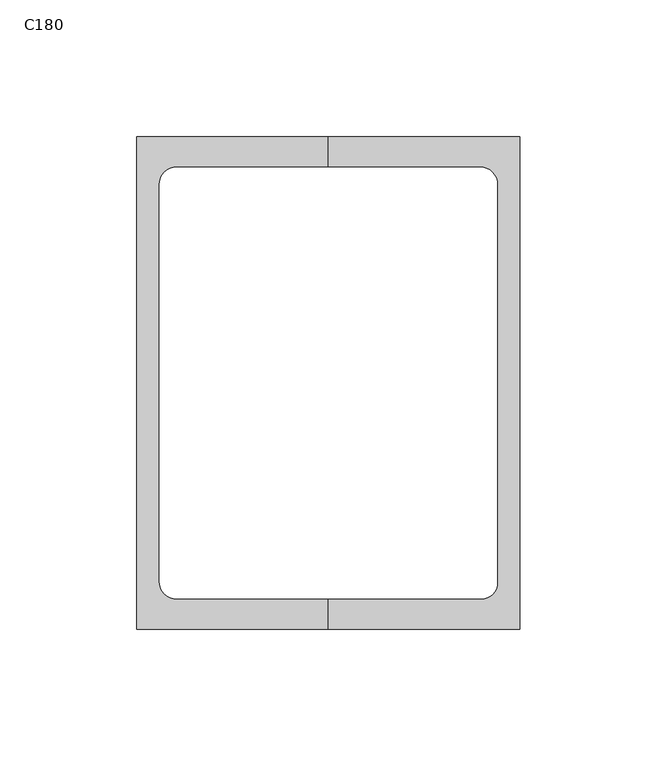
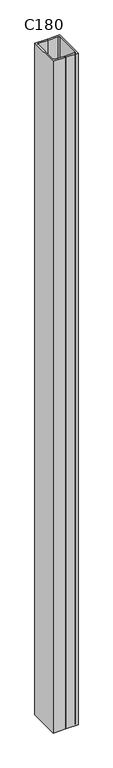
"""IFC4 building model written with IfcOpenShell, lengths in millimetres: column geometry, RPLN C - Ceowniki normalne_Column -x2 : C180."""

import ifcopenshell
import ifcopenshell.guid

model = None  # the IFC model being written
_history = None  # IfcOwnerHistory: only IFC2X3 demands one
_inside = {}  # id of a spatial element -> (the spatial element, [elements in it])
_under = {}  # id of a project, library or spatial element -> (it, [spatial elements below it])
_declared = {}  # id of a project -> (the project, [libraries it declares])
_typed = {}  # id of a type object -> (the type object, [elements of that type])
_made_of = {}  # id of a material, layer set ... -> (it, [elements and type objects made of it])


def new_model(schema):
    """Start an empty IFC model of exactly this schema.

    Asked for "IFC4X3", IfcOpenShell would pick the latest addendum, in which some entities
    have other attributes; the version numbers below select the first issue.
    IFC2X3 requires an IfcOwnerHistory on every rooted entity: one is made here for all.
    """
    global model, _history
    if schema == "IFC4X3":
        model = ifcopenshell.file(schema_version=(4, 3, 0, 0))
    else:
        model = ifcopenshell.file(schema=schema)
    _inside.clear()
    _under.clear()
    _declared.clear()
    _typed.clear()
    _made_of.clear()
    _history = None
    if model.schema == "IFC2X3":
        org = make("IfcOrganization", Name="unknown")
        user = make(
            "IfcPersonAndOrganization",
            ThePerson=make("IfcPerson", FamilyName="unknown"),
            TheOrganization=org,
        )
        app = make(
            "IfcApplication",
            ApplicationDeveloper=org,
            Version="unknown",
            ApplicationFullName="unknown",
            ApplicationIdentifier="unknown",
        )
        _history = make(
            "IfcOwnerHistory",
            OwningUser=user,
            OwningApplication=app,
            ChangeAction="ADDED",
            CreationDate=0,
        )
    return model


def make(cls, **values):
    """One entity of the class cls with the attributes given. An attribute that is None is left unset."""
    return model.create_entity(
        cls, **{name: value for name, value in values.items() if value is not None}
    )


def rooted(cls, **values):
    """An entity with a GlobalId (a new one), such as an element, a storey or a relation."""
    return make(cls, GlobalId=ifcopenshell.guid.new(), OwnerHistory=_history, **values)


def si_unit(unit_type, name, prefix=None):
    """IfcSIUnit, for example si_unit("LENGTHUNIT", "METRE", prefix="MILLI")."""
    return make("IfcSIUnit", UnitType=unit_type, Prefix=prefix, Name=name)


def assignment(units):
    """IfcUnitAssignment: the units of a project."""
    return None if units is None else make("IfcUnitAssignment", Units=units)


def point(xyz):
    """IfcCartesianPoint."""
    return None if xyz is None else make("IfcCartesianPoint", Coordinates=xyz)


def direction(xyz):
    """IfcDirection."""
    return None if xyz is None else make("IfcDirection", DirectionRatios=xyz)


def frame(location, z_axis=None, x_axis=None):
    """IfcAxis2Placement3D, a coordinate frame: its origin and axes. An axis left out is left unset."""
    return make(
        "IfcAxis2Placement3D",
        Location=point(location),
        Axis=direction(z_axis),
        RefDirection=direction(x_axis),
    )


def frame_2d(location, x_axis=None):
    """IfcAxis2Placement2D, a coordinate frame in the plane: its origin and x axis."""
    return make(
        "IfcAxis2Placement2D", Location=point(location), RefDirection=direction(x_axis)
    )


def origin():
    """The frame at (0, 0, 0) with its axes left unset."""
    return frame((0.0, 0.0, 0.0))


def origin_with_axes():
    """The frame at (0, 0, 0) with the z axis (0, 0, 1) and the x axis (1, 0, 0) written out."""
    return frame((0.0, 0.0, 0.0), z_axis=(0.0, 0.0, 1.0), x_axis=(1.0, 0.0, 0.0))


def place(relative_to, where):
    """IfcLocalPlacement: puts the frame where relative to a parent placement (None: the world)."""
    return make(
        "IfcLocalPlacement", PlacementRelTo=relative_to, RelativePlacement=where
    )


def context(
    kind, dimensions, precision=None, world=None, true_north=None, identifier=None
):
    """IfcGeometricRepresentationContext, for example the 3D "Model" context."""
    return make(
        "IfcGeometricRepresentationContext",
        ContextIdentifier=identifier,
        ContextType=kind,
        CoordinateSpaceDimension=dimensions,
        Precision=precision,
        WorldCoordinateSystem=world,
        TrueNorth=true_north,
    )


def project(units=None, contexts=None):
    """IfcProject with its units and contexts."""
    return rooted(
        "IfcProject",
        Name="project",
        RepresentationContexts=contexts,
        UnitsInContext=assignment(units),
    )


def spatial(cls, under=None, at=None, **own):
    """A site, building, storey or space (cls), placed at a placement, below another one or the project."""
    s = rooted(cls, ObjectPlacement=at, **own)
    if under is not None:
        _under.setdefault(under.id(), (under, []))[1].append(s)
    return s


def polyline(points):
    """IfcPolyline through the points."""
    return make("IfcPolyline", Points=[point(p) for p in points])


def circle_curve(where, radius):
    """IfcCircle in the frame where."""
    return make("IfcCircle", Position=where, Radius=radius)


def trimmed(basis, trim1, trim2, sense, master):
    """IfcTrimmedCurve: the piece of a basis curve between two trims."""
    return make(
        "IfcTrimmedCurve",
        BasisCurve=basis,
        Trim1=trim1,
        Trim2=trim2,
        SenseAgreement=sense,
        MasterRepresentation=master,
    )


def segment(curve, same_sense, transition):
    """IfcCompositeCurveSegment."""
    return make(
        "IfcCompositeCurveSegment",
        Transition=transition,
        SameSense=same_sense,
        ParentCurve=curve,
    )


def composite_curve(segments, self_intersect=None):
    """IfcCompositeCurve: segments joined end to end."""
    return make("IfcCompositeCurve", Segments=segments, SelfIntersect=self_intersect)


def outline(outer, holes=None, kind="AREA"):
    """IfcArbitraryClosedProfileDef: a profile drawn as a closed curve; with holes, ...WithVoids."""
    if holes is None:
        return make("IfcArbitraryClosedProfileDef", ProfileType=kind, OuterCurve=outer)
    return make(
        "IfcArbitraryProfileDefWithVoids",
        ProfileType=kind,
        OuterCurve=outer,
        InnerCurves=holes,
    )


def extrude(swept, where, along, depth):
    """IfcExtrudedAreaSolid: the profile swept, set in the frame where, extruded along a direction by depth."""
    return make(
        "IfcExtrudedAreaSolid",
        SweptArea=swept,
        Position=where,
        ExtrudedDirection=direction(along),
        Depth=depth,
    )


def shape(context_of_items, identifier, shape_type, items):
    """IfcShapeRepresentation: the items that make up one representation, for example the "Body"."""
    return make(
        "IfcShapeRepresentation",
        ContextOfItems=context_of_items,
        RepresentationIdentifier=identifier,
        RepresentationType=shape_type,
        Items=items,
    )


def source(mapping_origin, context_of_items, identifier, shape_type, items):
    """IfcRepresentationMap: a shape defined once, which mapped items show again and again."""
    return make(
        "IfcRepresentationMap",
        MappingOrigin=mapping_origin,
        MappedRepresentation=shape(context_of_items, identifier, shape_type, items),
    )


def transform(
    local_origin,
    x_axis=None,
    y_axis=None,
    z_axis=None,
    scale=None,
    scale2=None,
    scale3=None,
    uniform=True,
):
    """IfcCartesianTransformationOperator3D, or its non-uniform kind. x_axis, y_axis, z_axis: its Axis1, 2, 3."""
    if uniform:
        return make(
            "IfcCartesianTransformationOperator3D",
            Axis1=direction(x_axis),
            Axis2=direction(y_axis),
            LocalOrigin=point(local_origin),
            Scale=scale,
            Axis3=direction(z_axis),
        )
    return make(
        "IfcCartesianTransformationOperator3DnonUniform",
        Axis1=direction(x_axis),
        Axis2=direction(y_axis),
        LocalOrigin=point(local_origin),
        Scale=scale,
        Axis3=direction(z_axis),
        Scale2=scale2,
        Scale3=scale3,
    )


def mapped(mapping_source, mapping_target):
    """IfcMappedItem: shows the shape of a source again, moved by a transform."""
    return make(
        "IfcMappedItem", MappingSource=mapping_source, MappingTarget=mapping_target
    )


def made_of(thing, what):
    """Note that an element or type object is made of a material, layer set ...; save() writes the relation."""
    if what is not None:
        _made_of.setdefault(what.id(), (what, []))[1].append(thing)
    return thing


def element(
    cls,
    number,
    at=None,
    inside=None,
    cuts=None,
    type_object=None,
    material=None,
    context=None,
    identifier="Body",
    shape_type=None,
    held_by="IfcProductDefinitionShape",
    body=None,
    shapes=None,
    **own,
):
    """One element of the class cls, such as IfcWall. Its Tag is "e" and its number.

    at: its placement. inside: the storey or other place that contains it. cuts: it is an
    opening in that element (IfcRelVoidsElement). A single representation is given by context,
    identifier, shape_type and body (its items); several are given by shapes. held_by: the class
    of the entity that holds the representations. save() writes the other relations.
    """
    e = rooted(cls, Tag="e%d" % number, ObjectPlacement=at, **own)
    if body is not None:
        shapes = [shape(context, identifier, shape_type, body)]
    if shapes is not None:
        e.Representation = make(held_by, Representations=shapes)
    if inside is not None:
        _inside.setdefault(inside.id(), (inside, []))[1].append(e)
    if cuts is not None:
        rooted(
            "IfcRelVoidsElement", RelatingBuildingElement=cuts, RelatedOpeningElement=e
        )
    if type_object is not None:
        _typed.setdefault(type_object.id(), (type_object, []))[1].append(e)
    return made_of(e, material)


def aggregate(whole, parts):
    """IfcRelAggregates: a whole, such as a stair, and the parts it consists of."""
    return rooted("IfcRelAggregates", RelatingObject=whole, RelatedObjects=parts)


def save(model, path):
    """Write the relations noted so far, then the file.

    IfcRelAggregates (storeys below a building ...), IfcRelContainedInSpatialStructure (elements
    in a storey), IfcRelDefinesByType, IfcRelAssociatesMaterial and IfcRelDeclares: one each for
    every whole, place, type object, material and project.
    """
    for whole, parts in _under.values():
        aggregate(whole, parts)
    for where, things in _inside.values():
        rooted(
            "IfcRelContainedInSpatialStructure",
            RelatedElements=things,
            RelatingStructure=where,
        )
    for kind, things in _typed.values():
        rooted("IfcRelDefinesByType", RelatedObjects=things, RelatingType=kind)
    for what, things in _made_of.values():
        rooted("IfcRelAssociatesMaterial", RelatedObjects=things, RelatingMaterial=what)
    for by, libraries in _declared.values():
        rooted("IfcRelDeclares", RelatingContext=by, RelatedDefinitions=libraries)
    model.write(path)


def c180_2d3c2f65(model_context):
    return source(origin(), model_context, "Body", "SweptSolid", [
        extrude(outline(composite_curve([segment(polyline([(70.0, -90.0), (0.0, -90.0), (0.0, -79.0), (56.0, -79.0)]), True, "CONTINUOUS"), segment(trimmed(circle_curve(frame_2d((56.0, -73.0)), 6.0), [point((56.0, -79.0))], [point((62.0, -73.0))], True, "CARTESIAN"), True, "CONTINUOUS"), segment(polyline([(62.0, -73.0), (62.0, 72.5)]), True, "CONTINUOUS"), segment(trimmed(circle_curve(frame_2d((55.5, 72.5)), 6.5), [point((62.0, 72.5))], [point((55.5, 79.0))], True, "CARTESIAN"), True, "CONTINUOUS"), segment(polyline([(55.5, 79.0), (0.0, 79.0), (0.0, 90.0), (70.0, 90.0), (70.0, -90.0)]), True, "CONTINUOUS")], self_intersect=False)), origin_with_axes(), (0.0, 0.0, 1.0), 4020.0),
        extrude(outline(composite_curve([segment(polyline([(-70.0, -90.0), (-70.0, 90.0), (0.0, 90.0), (0.0, 79.0), (-55.5, 79.0)]), True, "CONTINUOUS"), segment(trimmed(circle_curve(frame_2d((-55.5, 72.5)), 6.5), [point((-55.5, 79.0))], [point((-62.0, 72.5))], True, "CARTESIAN"), True, "CONTINUOUS"), segment(polyline([(-62.0, 72.5), (-62.0, -72.5)]), True, "CONTINUOUS"), segment(trimmed(circle_curve(frame_2d((-55.5, -72.5)), 6.5), [point((-62.0, -72.5))], [point((-55.5, -79.0))], True, "CARTESIAN"), True, "CONTINUOUS"), segment(polyline([(-55.5, -79.0), (0.0, -79.0), (0.0, -90.0), (-70.0, -90.0)]), True, "CONTINUOUS")], self_intersect=False)), origin_with_axes(), (0.0, 0.0, 1.0), 4020.0),
    ])


if __name__ == "__main__":
    model = new_model("IFC4")
    model_context = context("Model", 3, world=origin())
    ifc_project = project(units=[si_unit("LENGTHUNIT", "METRE", prefix="MILLI")], contexts=[model_context])
    site = spatial("IfcSite", under=ifc_project)
    building = spatial("IfcBuilding", under=site)
    placement = place(None, origin())
    c180_shape = c180_2d3c2f65(model_context)
    element("IfcColumn", 1, ObjectType="RPLN C - Ceowniki normalne_Column -x2 : C180", at=placement, inside=building, context=model_context, shape_type="MappedRepresentation", body=[
        mapped(c180_shape, transform((0.0, 0.0, 0.0), x_axis=(1.0, 0.0, 0.0), y_axis=(0.0, 1.0, 0.0), z_axis=(0.0, 0.0, 1.0))),
    ])
    save(model, "model.ifc")
